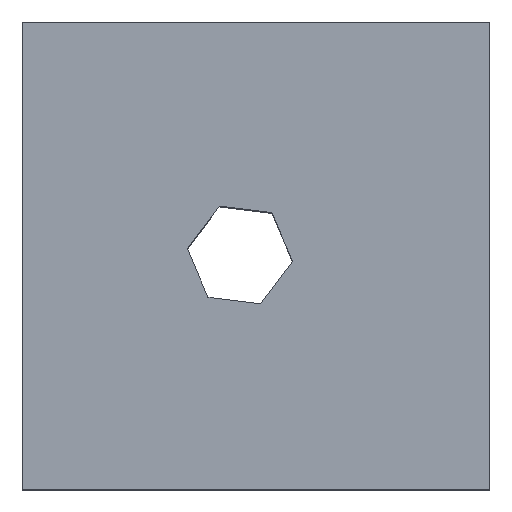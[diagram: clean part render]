
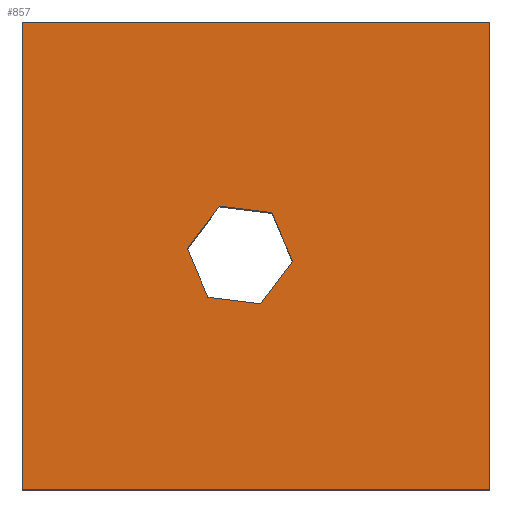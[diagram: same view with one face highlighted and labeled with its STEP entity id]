
A CAD part, top view. The second image highlights one B-rep face of the part: STEP entity #857.
In plain terms, the highlighted planar face has unit normal (0, 0, 1).
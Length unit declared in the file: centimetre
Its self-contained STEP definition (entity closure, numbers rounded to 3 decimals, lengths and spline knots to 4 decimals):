
#17 = VECTOR ( 'NONE', #385, 100. ) ;
#26 = FACE_OUTER_BOUND ( 'NONE', #242, .T. ) ;
#29 = DIRECTION ( 'NONE',  ( -0.992, 0.123, 0. ) ) ;
#37 = ORIENTED_EDGE ( 'NONE', *, *, #551, .T. ) ;
#63 = ORIENTED_EDGE ( 'NONE', *, *, #837, .T. ) ;
#68 = ORIENTED_EDGE ( 'NONE', *, *, #79, .T. ) ;
#77 = EDGE_CURVE ( 'NONE', #297, #261, #589, .T. ) ;
#79 = EDGE_CURVE ( 'NONE', #457, #990, #925, .T. ) ;
#82 = LINE ( 'NONE', #914, #575 ) ;
#85 = VERTEX_POINT ( 'NONE', #825 ) ;
#100 = DIRECTION ( 'NONE',  ( 1., 0., 0. ) ) ;
#115 = CARTESIAN_POINT ( 'NONE',  ( 534.0244, 592.6683, 1000. ) ) ;
#119 = CARTESIAN_POINT ( 'NONE',  ( 0., 0., 1000. ) ) ;
#142 = ORIENTED_EDGE ( 'NONE', *, *, #350, .T. ) ;
#150 = ORIENTED_EDGE ( 'NONE', *, *, #1033, .T. ) ;
#154 = CARTESIAN_POINT ( 'NONE',  ( 0., 1000., 1000. ) ) ;
#161 = DIRECTION ( 'NONE',  ( 0.992, -0.123, 0. ) ) ;
#173 = VERTEX_POINT ( 'NONE', #1008 ) ;
#204 = VERTEX_POINT ( 'NONE', #285 ) ;
#212 = VECTOR ( 'NONE', #773, 100. ) ;
#217 = CARTESIAN_POINT ( 'NONE',  ( 1000., 1000., 1000. ) ) ;
#242 = EDGE_LOOP ( 'NONE', ( #928, #68, #988, #37 ) ) ;
#261 = VERTEX_POINT ( 'NONE', #566 ) ;
#275 = CARTESIAN_POINT ( 'NONE',  ( 0., 0., 1000. ) ) ;
#282 = VECTOR ( 'NONE', #865, 100. ) ;
#285 = CARTESIAN_POINT ( 'NONE',  ( 421.474, 606.5881, 1000. ) ) ;
#297 = VERTEX_POINT ( 'NONE', #562 ) ;
#305 = ORIENTED_EDGE ( 'NONE', *, *, #77, .T. ) ;
#315 = EDGE_CURVE ( 'NONE', #990, #336, #377, .T. ) ;
#322 = CARTESIAN_POINT ( 'NONE',  ( 0., 0., 1000. ) ) ;
#336 = VERTEX_POINT ( 'NONE', #217 ) ;
#350 = EDGE_CURVE ( 'NONE', #85, #297, #715, .T. ) ;
#365 = VECTOR ( 'NONE', #161, 100. ) ;
#377 = LINE ( 'NONE', #558, #718 ) ;
#385 = DIRECTION ( 'NONE',  ( -0.603, -0.798, 0. ) ) ;
#390 = CARTESIAN_POINT ( 'NONE',  ( 1000., 0., 1000. ) ) ;
#393 = EDGE_CURVE ( 'NONE', #173, #204, #640, .T. ) ;
#436 = CARTESIAN_POINT ( 'NONE',  ( 0., 1000., 1000. ) ) ;
#440 = DIRECTION ( 'NONE',  ( 0., 0., 1. ) ) ;
#446 = DIRECTION ( 'NONE',  ( -1., 0., 0. ) ) ;
#457 = VERTEX_POINT ( 'NONE', #322 ) ;
#465 = ORIENTED_EDGE ( 'NONE', *, *, #393, .T. ) ;
#468 = DIRECTION ( 'NONE',  ( 0.39, -0.921, 0. ) ) ;
#472 = DIRECTION ( 'NONE',  ( 0., 1., 0. ) ) ;
#499 = EDGE_CURVE ( 'NONE', #204, #585, #722, .T. ) ;
#502 = DIRECTION ( 'NONE',  ( 0.603, 0.798, 0. ) ) ;
#543 = EDGE_LOOP ( 'NONE', ( #150, #465, #746, #63, #142, #305 ) ) ;
#551 = EDGE_CURVE ( 'NONE', #336, #814, #82, .T. ) ;
#554 = CARTESIAN_POINT ( 'NONE',  ( 534.0244, 592.6683, 1000. ) ) ;
#558 = CARTESIAN_POINT ( 'NONE',  ( 1000., 1000., 1000. ) ) ;
#562 = CARTESIAN_POINT ( 'NONE',  ( 509.9146, 397.7254, 1000. ) ) ;
#566 = CARTESIAN_POINT ( 'NONE',  ( 397.3642, 411.6452, 1000. ) ) ;
#575 = VECTOR ( 'NONE', #446, 100. ) ;
#585 = VERTEX_POINT ( 'NONE', #115 ) ;
#589 = LINE ( 'NONE', #909, #755 ) ;
#626 = VECTOR ( 'NONE', #502, 100. ) ;
#639 = AXIS2_PLACEMENT_3D ( 'NONE', #275, #440, #100 ) ;
#640 = LINE ( 'NONE', #887, #626 ) ;
#704 = EDGE_CURVE ( 'NONE', #814, #457, #1057, .T. ) ;
#705 = LINE ( 'NONE', #554, #1005 ) ;
#706 = CARTESIAN_POINT ( 'NONE',  ( 397.3642, 411.6452, 1000. ) ) ;
#715 = LINE ( 'NONE', #871, #17 ) ;
#718 = VECTOR ( 'NONE', #472, 100. ) ;
#722 = LINE ( 'NONE', #895, #365 ) ;
#741 = VECTOR ( 'NONE', #934, 100. ) ;
#746 = ORIENTED_EDGE ( 'NONE', *, *, #499, .T. ) ;
#755 = VECTOR ( 'NONE', #29, 100. ) ;
#773 = DIRECTION ( 'NONE',  ( 0., -1., 0. ) ) ;
#814 = VERTEX_POINT ( 'NONE', #436 ) ;
#825 = CARTESIAN_POINT ( 'NONE',  ( 578.2447, 488.2369, 1000. ) ) ;
#833 = FACE_BOUND ( 'NONE', #543, .T. ) ;
#837 = EDGE_CURVE ( 'NONE', #585, #85, #705, .T. ) ;
#857 = ADVANCED_FACE ( 'NONE', ( #833, #26 ), #1019, .T. ) ;
#865 = DIRECTION ( 'NONE',  ( -0.39, 0.921, 0. ) ) ;
#871 = CARTESIAN_POINT ( 'NONE',  ( 578.2447, 488.2369, 1000. ) ) ;
#887 = CARTESIAN_POINT ( 'NONE',  ( 353.144, 516.0766, 1000. ) ) ;
#895 = CARTESIAN_POINT ( 'NONE',  ( 421.474, 606.5881, 1000. ) ) ;
#909 = CARTESIAN_POINT ( 'NONE',  ( 509.9146, 397.7254, 1000. ) ) ;
#914 = CARTESIAN_POINT ( 'NONE',  ( 0., 1000., 1000. ) ) ;
#925 = LINE ( 'NONE', #119, #741 ) ;
#928 = ORIENTED_EDGE ( 'NONE', *, *, #704, .T. ) ;
#934 = DIRECTION ( 'NONE',  ( 1., 0., 0. ) ) ;
#956 = LINE ( 'NONE', #706, #282 ) ;
#988 = ORIENTED_EDGE ( 'NONE', *, *, #315, .T. ) ;
#990 = VERTEX_POINT ( 'NONE', #390 ) ;
#1005 = VECTOR ( 'NONE', #468, 100. ) ;
#1008 = CARTESIAN_POINT ( 'NONE',  ( 353.144, 516.0766, 1000. ) ) ;
#1019 = PLANE ( 'NONE',  #639 ) ;
#1033 = EDGE_CURVE ( 'NONE', #261, #173, #956, .T. ) ;
#1057 = LINE ( 'NONE', #154, #212 ) ;
